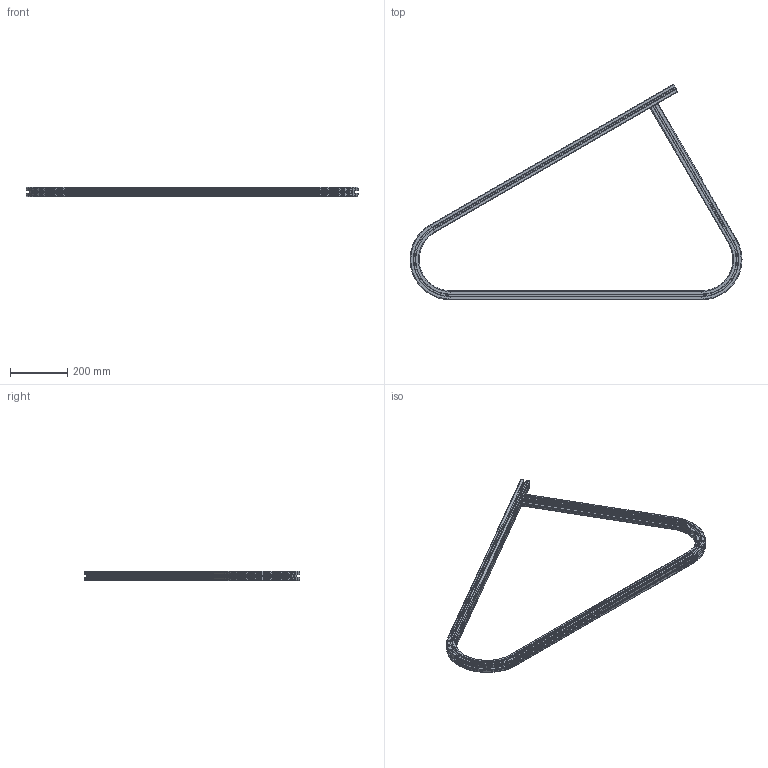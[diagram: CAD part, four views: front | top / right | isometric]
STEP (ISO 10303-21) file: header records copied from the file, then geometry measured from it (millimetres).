
FILE_DESCRIPTION (( 'STEP AP203' ), '1' );
FILE_NAME ('084.106.303.STEP', '2013-01-23T13:24:37', ( 'Alusic' ), ( 'Alusic' ), 'SwSTEP 2.0', 'SolidWorks 2011', '' );
FILE_SCHEMA (( 'CONFIG_CONTROL_DESIGN' ));
Length unit declared in the file: millimetre
Products named in the file (1): 084.106.303
Bounding box: 1161 x 754.62 x 32 mm (x, y, z)
Volume: 959584.6 mm3; surface area: 1081001 mm2
Topology: 5 solids, 5 shells, 530 faces, 1521 edges, 1001 vertices
Faces by surface type: plane 218, cylinder 195, torus 117
Entity records: 17784 total; most frequent: DIRECTION 3285, CARTESIAN_POINT 3053, ORIENTED_EDGE 3042, EDGE_CURVE 1521, AXIS2_PLACEMENT_3D 1233, VERTEX_POINT 1001, LINE 819, VECTOR 819
